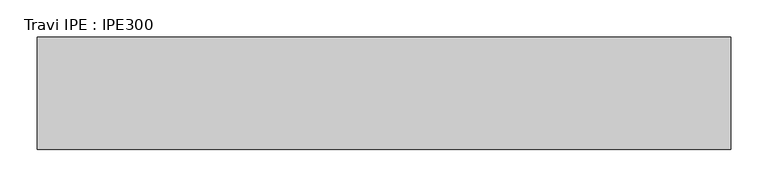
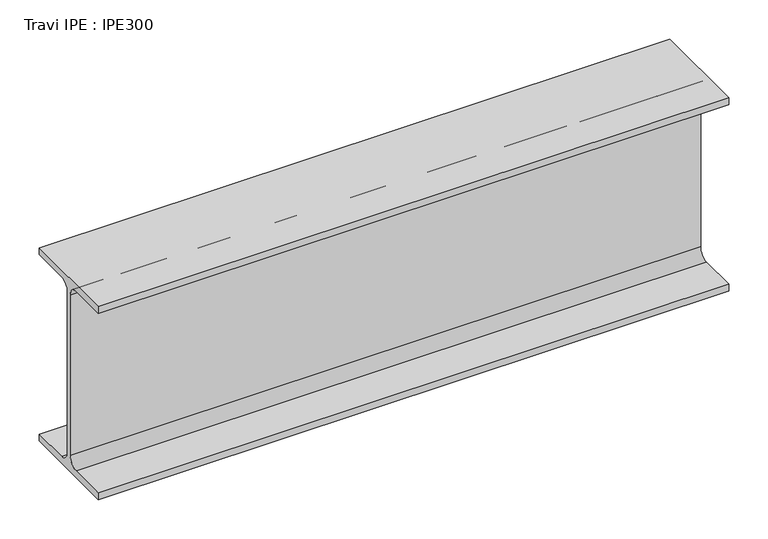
"""IFC4 building model written with IfcOpenShell, lengths in millimetres: beam geometry, Travi IPE : IPE300."""

import ifcopenshell
import ifcopenshell.guid

model = None  # the IFC model being written
_history = None  # IfcOwnerHistory: only IFC2X3 demands one
_inside = {}  # id of a spatial element -> (the spatial element, [elements in it])
_under = {}  # id of a project, library or spatial element -> (it, [spatial elements below it])
_declared = {}  # id of a project -> (the project, [libraries it declares])
_typed = {}  # id of a type object -> (the type object, [elements of that type])
_made_of = {}  # id of a material, layer set ... -> (it, [elements and type objects made of it])


def new_model(schema):
    """Start an empty IFC model of exactly this schema.

    Asked for "IFC4X3", IfcOpenShell would pick the latest addendum, in which some entities
    have other attributes; the version numbers below select the first issue.
    IFC2X3 requires an IfcOwnerHistory on every rooted entity: one is made here for all.
    """
    global model, _history
    if schema == "IFC4X3":
        model = ifcopenshell.file(schema_version=(4, 3, 0, 0))
    else:
        model = ifcopenshell.file(schema=schema)
    _inside.clear()
    _under.clear()
    _declared.clear()
    _typed.clear()
    _made_of.clear()
    _history = None
    if model.schema == "IFC2X3":
        org = make("IfcOrganization", Name="unknown")
        user = make(
            "IfcPersonAndOrganization",
            ThePerson=make("IfcPerson", FamilyName="unknown"),
            TheOrganization=org,
        )
        app = make(
            "IfcApplication",
            ApplicationDeveloper=org,
            Version="unknown",
            ApplicationFullName="unknown",
            ApplicationIdentifier="unknown",
        )
        _history = make(
            "IfcOwnerHistory",
            OwningUser=user,
            OwningApplication=app,
            ChangeAction="ADDED",
            CreationDate=0,
        )
    return model


def make(cls, **values):
    """One entity of the class cls with the attributes given. An attribute that is None is left unset."""
    return model.create_entity(
        cls, **{name: value for name, value in values.items() if value is not None}
    )


def rooted(cls, **values):
    """An entity with a GlobalId (a new one), such as an element, a storey or a relation."""
    return make(cls, GlobalId=ifcopenshell.guid.new(), OwnerHistory=_history, **values)


def si_unit(unit_type, name, prefix=None):
    """IfcSIUnit, for example si_unit("LENGTHUNIT", "METRE", prefix="MILLI")."""
    return make("IfcSIUnit", UnitType=unit_type, Prefix=prefix, Name=name)


def assignment(units):
    """IfcUnitAssignment: the units of a project."""
    return None if units is None else make("IfcUnitAssignment", Units=units)


def point(xyz):
    """IfcCartesianPoint."""
    return None if xyz is None else make("IfcCartesianPoint", Coordinates=xyz)


def direction(xyz):
    """IfcDirection."""
    return None if xyz is None else make("IfcDirection", DirectionRatios=xyz)


def frame(location, z_axis=None, x_axis=None):
    """IfcAxis2Placement3D, a coordinate frame: its origin and axes. An axis left out is left unset."""
    return make(
        "IfcAxis2Placement3D",
        Location=point(location),
        Axis=direction(z_axis),
        RefDirection=direction(x_axis),
    )


def frame_2d(location, x_axis=None):
    """IfcAxis2Placement2D, a coordinate frame in the plane: its origin and x axis."""
    return make(
        "IfcAxis2Placement2D", Location=point(location), RefDirection=direction(x_axis)
    )


def origin():
    """The frame at (0, 0, 0) with its axes left unset."""
    return frame((0.0, 0.0, 0.0))


def place(relative_to, where):
    """IfcLocalPlacement: puts the frame where relative to a parent placement (None: the world)."""
    return make(
        "IfcLocalPlacement", PlacementRelTo=relative_to, RelativePlacement=where
    )


def context(
    kind, dimensions, precision=None, world=None, true_north=None, identifier=None
):
    """IfcGeometricRepresentationContext, for example the 3D "Model" context."""
    return make(
        "IfcGeometricRepresentationContext",
        ContextIdentifier=identifier,
        ContextType=kind,
        CoordinateSpaceDimension=dimensions,
        Precision=precision,
        WorldCoordinateSystem=world,
        TrueNorth=true_north,
    )


def project(units=None, contexts=None):
    """IfcProject with its units and contexts."""
    return rooted(
        "IfcProject",
        Name="project",
        RepresentationContexts=contexts,
        UnitsInContext=assignment(units),
    )


def spatial(cls, under=None, at=None, **own):
    """A site, building, storey or space (cls), placed at a placement, below another one or the project."""
    s = rooted(cls, ObjectPlacement=at, **own)
    if under is not None:
        _under.setdefault(under.id(), (under, []))[1].append(s)
    return s


def polyline(points):
    """IfcPolyline through the points."""
    return make("IfcPolyline", Points=[point(p) for p in points])


def circle_curve(where, radius):
    """IfcCircle in the frame where."""
    return make("IfcCircle", Position=where, Radius=radius)


def trimmed(basis, trim1, trim2, sense, master):
    """IfcTrimmedCurve: the piece of a basis curve between two trims."""
    return make(
        "IfcTrimmedCurve",
        BasisCurve=basis,
        Trim1=trim1,
        Trim2=trim2,
        SenseAgreement=sense,
        MasterRepresentation=master,
    )


def segment(curve, same_sense, transition):
    """IfcCompositeCurveSegment."""
    return make(
        "IfcCompositeCurveSegment",
        Transition=transition,
        SameSense=same_sense,
        ParentCurve=curve,
    )


def composite_curve(segments, self_intersect=None):
    """IfcCompositeCurve: segments joined end to end."""
    return make("IfcCompositeCurve", Segments=segments, SelfIntersect=self_intersect)


def outline(outer, holes=None, kind="AREA"):
    """IfcArbitraryClosedProfileDef: a profile drawn as a closed curve; with holes, ...WithVoids."""
    if holes is None:
        return make("IfcArbitraryClosedProfileDef", ProfileType=kind, OuterCurve=outer)
    return make(
        "IfcArbitraryProfileDefWithVoids",
        ProfileType=kind,
        OuterCurve=outer,
        InnerCurves=holes,
    )


def extrude(swept, where, along, depth):
    """IfcExtrudedAreaSolid: the profile swept, set in the frame where, extruded along a direction by depth."""
    return make(
        "IfcExtrudedAreaSolid",
        SweptArea=swept,
        Position=where,
        ExtrudedDirection=direction(along),
        Depth=depth,
    )


def shape(context_of_items, identifier, shape_type, items):
    """IfcShapeRepresentation: the items that make up one representation, for example the "Body"."""
    return make(
        "IfcShapeRepresentation",
        ContextOfItems=context_of_items,
        RepresentationIdentifier=identifier,
        RepresentationType=shape_type,
        Items=items,
    )


def source(mapping_origin, context_of_items, identifier, shape_type, items):
    """IfcRepresentationMap: a shape defined once, which mapped items show again and again."""
    return make(
        "IfcRepresentationMap",
        MappingOrigin=mapping_origin,
        MappedRepresentation=shape(context_of_items, identifier, shape_type, items),
    )


def transform(
    local_origin,
    x_axis=None,
    y_axis=None,
    z_axis=None,
    scale=None,
    scale2=None,
    scale3=None,
    uniform=True,
):
    """IfcCartesianTransformationOperator3D, or its non-uniform kind. x_axis, y_axis, z_axis: its Axis1, 2, 3."""
    if uniform:
        return make(
            "IfcCartesianTransformationOperator3D",
            Axis1=direction(x_axis),
            Axis2=direction(y_axis),
            LocalOrigin=point(local_origin),
            Scale=scale,
            Axis3=direction(z_axis),
        )
    return make(
        "IfcCartesianTransformationOperator3DnonUniform",
        Axis1=direction(x_axis),
        Axis2=direction(y_axis),
        LocalOrigin=point(local_origin),
        Scale=scale,
        Axis3=direction(z_axis),
        Scale2=scale2,
        Scale3=scale3,
    )


def mapped(mapping_source, mapping_target):
    """IfcMappedItem: shows the shape of a source again, moved by a transform."""
    return make(
        "IfcMappedItem", MappingSource=mapping_source, MappingTarget=mapping_target
    )


def made_of(thing, what):
    """Note that an element or type object is made of a material, layer set ...; save() writes the relation."""
    if what is not None:
        _made_of.setdefault(what.id(), (what, []))[1].append(thing)
    return thing


def element(
    cls,
    number,
    at=None,
    inside=None,
    cuts=None,
    type_object=None,
    material=None,
    context=None,
    identifier="Body",
    shape_type=None,
    held_by="IfcProductDefinitionShape",
    body=None,
    shapes=None,
    **own,
):
    """One element of the class cls, such as IfcWall. Its Tag is "e" and its number.

    at: its placement. inside: the storey or other place that contains it. cuts: it is an
    opening in that element (IfcRelVoidsElement). A single representation is given by context,
    identifier, shape_type and body (its items); several are given by shapes. held_by: the class
    of the entity that holds the representations. save() writes the other relations.
    """
    e = rooted(cls, Tag="e%d" % number, ObjectPlacement=at, **own)
    if body is not None:
        shapes = [shape(context, identifier, shape_type, body)]
    if shapes is not None:
        e.Representation = make(held_by, Representations=shapes)
    if inside is not None:
        _inside.setdefault(inside.id(), (inside, []))[1].append(e)
    if cuts is not None:
        rooted(
            "IfcRelVoidsElement", RelatingBuildingElement=cuts, RelatedOpeningElement=e
        )
    if type_object is not None:
        _typed.setdefault(type_object.id(), (type_object, []))[1].append(e)
    return made_of(e, material)


def aggregate(whole, parts):
    """IfcRelAggregates: a whole, such as a stair, and the parts it consists of."""
    return rooted("IfcRelAggregates", RelatingObject=whole, RelatedObjects=parts)


def save(model, path):
    """Write the relations noted so far, then the file.

    IfcRelAggregates (storeys below a building ...), IfcRelContainedInSpatialStructure (elements
    in a storey), IfcRelDefinesByType, IfcRelAssociatesMaterial and IfcRelDeclares: one each for
    every whole, place, type object, material and project.
    """
    for whole, parts in _under.values():
        aggregate(whole, parts)
    for where, things in _inside.values():
        rooted(
            "IfcRelContainedInSpatialStructure",
            RelatedElements=things,
            RelatingStructure=where,
        )
    for kind, things in _typed.values():
        rooted("IfcRelDefinesByType", RelatedObjects=things, RelatingType=kind)
    for what, things in _made_of.values():
        rooted("IfcRelAssociatesMaterial", RelatedObjects=things, RelatingMaterial=what)
    for by, libraries in _declared.values():
        rooted("IfcRelDeclares", RelatingContext=by, RelatedDefinitions=libraries)
    model.write(path)


def travi_ipe_ipe300_2685f596(model_context):
    return source(origin(), model_context, "Body", "SweptSolid", [
        extrude(outline(composite_curve([segment(polyline([(75.0, -139.3), (75.0, -150.0), (-75.0, -150.0), (-75.0, -139.3), (-18.55, -139.3)]), True, "CONTINUOUS"), segment(trimmed(circle_curve(frame_2d((-18.55, -124.3)), 15.0), [point((-18.55, -139.3))], [point((-3.55, -124.3))], True, "CARTESIAN"), True, "CONTINUOUS"), segment(polyline([(-3.55, -124.3), (-3.55, 124.3)]), True, "CONTINUOUS"), segment(trimmed(circle_curve(frame_2d((-18.55, 124.3)), 15.0), [point((-3.55, 124.3))], [point((-18.55, 139.3))], True, "CARTESIAN"), True, "CONTINUOUS"), segment(polyline([(-18.55, 139.3), (-75.0, 139.3), (-75.0, 150.0), (75.0, 150.0), (75.0, 139.3), (18.55, 139.3)]), True, "CONTINUOUS"), segment(trimmed(circle_curve(frame_2d((18.55, 124.3)), 15.0), [point((18.55, 139.3))], [point((3.55, 124.3))], True, "CARTESIAN"), True, "CONTINUOUS"), segment(polyline([(3.55, 124.3), (3.55, -124.3)]), True, "CONTINUOUS"), segment(trimmed(circle_curve(frame_2d((18.55, -124.3)), 15.0), [point((3.55, -124.3))], [point((18.55, -139.3))], True, "CARTESIAN"), True, "CONTINUOUS"), segment(polyline([(18.55, -139.3), (75.0, -139.3)]), True, "CONTINUOUS")], self_intersect=False)), frame((-507.0, 0.0, 0.0), z_axis=(1.0, 0.0, 0.0), x_axis=(0.0, 1.0, 0.0)), (0.0, 0.0, 1.0), 925.0),
    ])


if __name__ == "__main__":
    model = new_model("IFC4")
    model_context = context("Model", 3, world=origin())
    ifc_project = project(units=[si_unit("LENGTHUNIT", "METRE", prefix="MILLI")], contexts=[model_context])
    site = spatial("IfcSite", under=ifc_project)
    building = spatial("IfcBuilding", under=site)
    placement = place(None, origin())
    travi_ipe_ipe300_shape = travi_ipe_ipe300_2685f596(model_context)
    element("IfcBeam", 1, ObjectType="Travi IPE : IPE300", at=placement, inside=building, context=model_context, shape_type="MappedRepresentation", body=[
        mapped(travi_ipe_ipe300_shape, transform((0.0, 0.0, 0.0), x_axis=(1.0, 0.0, 0.0), y_axis=(0.0, 1.0, 0.0), z_axis=(0.0, 0.0, 1.0))),
    ])
    save(model, "model.ifc")
